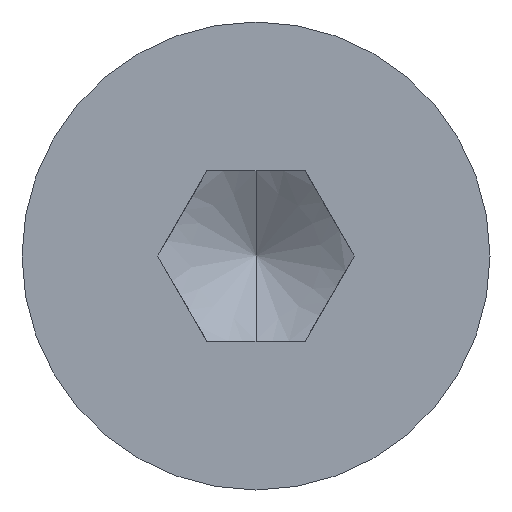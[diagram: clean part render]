
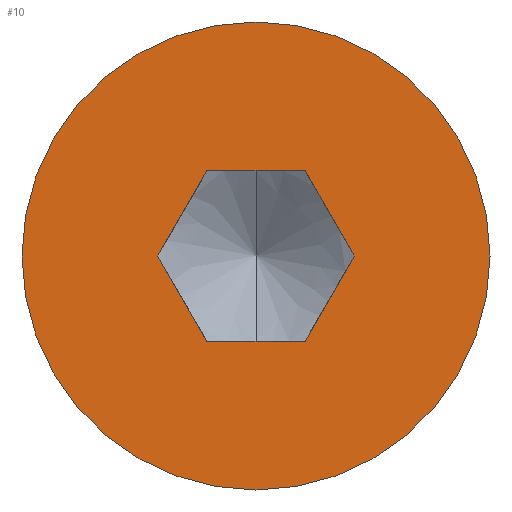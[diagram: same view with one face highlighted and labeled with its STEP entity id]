
A CAD part, left-side view. The second image highlights one B-rep face of the part: STEP entity #10.
In plain terms, the highlighted planar face has unit normal (-1, 0, 0).
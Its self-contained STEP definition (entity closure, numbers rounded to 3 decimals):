
#2 = EDGE_CURVE ( 'NONE', #323, #322, #436, .T. ) ;
#3 = EDGE_CURVE ( 'NONE', #322, #321, #440, .T. ) ;
#10 = ADVANCED_FACE ( 'NONE', ( #196, #201 ), #460, .F. ) ;
#55 = EDGE_CURVE ( 'NONE', #318, #317, #130, .T. ) ;
#57 = EDGE_CURVE ( 'NONE', #321, #319, #670, .T. ) ;
#58 = EDGE_CURVE ( 'NONE', #319, #320, #673, .T. ) ;
#59 = EDGE_CURVE ( 'NONE', #324, #323, #676, .T. ) ;
#60 = EDGE_CURVE ( 'NONE', #320, #324, #679, .T. ) ;
#61 = EDGE_CURVE ( 'NONE', #317, #318, #131, .T. ) ;
#130 = CIRCLE ( 'NONE', #599, 5.5 ) ;
#131 = CIRCLE ( 'NONE', #698, 5.5 ) ;
#182 = VECTOR ( 'NONE', #438, 1000. ) ;
#185 = VECTOR ( 'NONE', #442, 1000. ) ;
#196 = FACE_BOUND ( 'NONE', #275, .T. ) ;
#201 = FACE_OUTER_BOUND ( 'NONE', #276, .T. ) ;
#203 = AXIS2_PLACEMENT_3D ( 'NONE', #461, #462, #463 ) ;
#210 = ORIENTED_EDGE ( 'NONE', *, *, #59, .F. ) ;
#211 = ORIENTED_EDGE ( 'NONE', *, *, #3, .F. ) ;
#212 = ORIENTED_EDGE ( 'NONE', *, *, #57, .F. ) ;
#213 = ORIENTED_EDGE ( 'NONE', *, *, #2, .F. ) ;
#215 = ORIENTED_EDGE ( 'NONE', *, *, #60, .F. ) ;
#268 = ORIENTED_EDGE ( 'NONE', *, *, #58, .F. ) ;
#275 = EDGE_LOOP ( 'NONE', ( #268, #212, #211, #213, #210, #215 ) ) ;
#276 = EDGE_LOOP ( 'NONE', ( #338, #337 ) ) ;
#317 = VERTEX_POINT ( 'NONE', #955 ) ;
#318 = VERTEX_POINT ( 'NONE', #956 ) ;
#319 = VERTEX_POINT ( 'NONE', #957 ) ;
#320 = VERTEX_POINT ( 'NONE', #958 ) ;
#321 = VERTEX_POINT ( 'NONE', #959 ) ;
#322 = VERTEX_POINT ( 'NONE', #960 ) ;
#323 = VERTEX_POINT ( 'NONE', #961 ) ;
#324 = VERTEX_POINT ( 'NONE', #962 ) ;
#337 = ORIENTED_EDGE ( 'NONE', *, *, #61, .T. ) ;
#338 = ORIENTED_EDGE ( 'NONE', *, *, #55, .T. ) ;
#436 = LINE ( 'NONE', #437, #182 ) ;
#437 = CARTESIAN_POINT ( 'NONE',  ( 0., 2.309, 0. ) ) ;
#438 = DIRECTION ( 'NONE',  ( 0., -0.5, -0.866 ) ) ;
#440 = LINE ( 'NONE', #441, #185 ) ;
#441 = CARTESIAN_POINT ( 'NONE',  ( 0., 1.155, -2. ) ) ;
#442 = DIRECTION ( 'NONE',  ( 0., -1., 0. ) ) ;
#460 = PLANE ( 'NONE',  #203 ) ;
#461 = CARTESIAN_POINT ( 'NONE',  ( 0., 0., 0. ) ) ;
#462 = DIRECTION ( 'NONE',  ( 1., 0., 0. ) ) ;
#463 = DIRECTION ( 'NONE',  ( 0., 0., -1. ) ) ;
#599 = AXIS2_PLACEMENT_3D ( 'NONE', #663, #664, #665 ) ;
#663 = CARTESIAN_POINT ( 'NONE',  ( 0., 0., 0. ) ) ;
#664 = DIRECTION ( 'NONE',  ( -1., 0., 0. ) ) ;
#665 = DIRECTION ( 'NONE',  ( 0., 0., 1. ) ) ;
#666 = CARTESIAN_POINT ( 'NONE',  ( 0., 0., 0. ) ) ;
#670 = LINE ( 'NONE', #671, #694 ) ;
#671 = CARTESIAN_POINT ( 'NONE',  ( 0., -1.155, -2. ) ) ;
#672 = DIRECTION ( 'NONE',  ( 0., -0.5, 0.866 ) ) ;
#673 = LINE ( 'NONE', #674, #695 ) ;
#674 = CARTESIAN_POINT ( 'NONE',  ( 0., -2.309, 0. ) ) ;
#675 = DIRECTION ( 'NONE',  ( 0., 0.5, 0.866 ) ) ;
#676 = LINE ( 'NONE', #677, #697 ) ;
#677 = CARTESIAN_POINT ( 'NONE',  ( 0., 1.155, 2. ) ) ;
#678 = DIRECTION ( 'NONE',  ( 0., 0.5, -0.866 ) ) ;
#679 = LINE ( 'NONE', #680, #699 ) ;
#680 = CARTESIAN_POINT ( 'NONE',  ( 0., -1.155, 2. ) ) ;
#681 = DIRECTION ( 'NONE',  ( 0., 1., 0. ) ) ;
#682 = DIRECTION ( 'NONE',  ( -1., 0., 0. ) ) ;
#683 = DIRECTION ( 'NONE',  ( 0., 0., 1. ) ) ;
#694 = VECTOR ( 'NONE', #672, 1000. ) ;
#695 = VECTOR ( 'NONE', #675, 1000. ) ;
#697 = VECTOR ( 'NONE', #678, 1000. ) ;
#698 = AXIS2_PLACEMENT_3D ( 'NONE', #666, #682, #683 ) ;
#699 = VECTOR ( 'NONE', #681, 1000. ) ;
#955 = CARTESIAN_POINT ( 'NONE',  ( 0., 0., -5.5 ) ) ;
#956 = CARTESIAN_POINT ( 'NONE',  ( 0., 0., 5.5 ) ) ;
#957 = CARTESIAN_POINT ( 'NONE',  ( 0., -2.309, 0. ) ) ;
#958 = CARTESIAN_POINT ( 'NONE',  ( 0., -1.155, 2. ) ) ;
#959 = CARTESIAN_POINT ( 'NONE',  ( 0., -1.155, -2. ) ) ;
#960 = CARTESIAN_POINT ( 'NONE',  ( 0., 1.155, -2. ) ) ;
#961 = CARTESIAN_POINT ( 'NONE',  ( 0., 2.309, 0. ) ) ;
#962 = CARTESIAN_POINT ( 'NONE',  ( 0., 1.155, 2. ) ) ;
